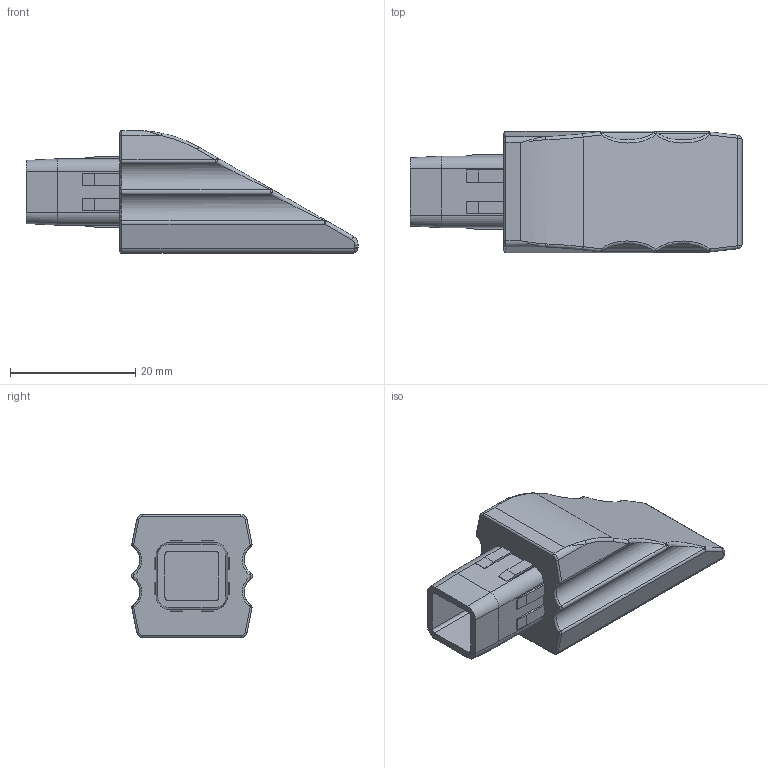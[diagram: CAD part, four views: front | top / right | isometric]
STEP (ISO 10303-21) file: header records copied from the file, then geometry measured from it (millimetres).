
FILE_DESCRIPTION (( 'STEP AP214' ), '1' );
FILE_NAME ('FGEC 30D.step', '2017-04-05T07:37:10', ( '' ), ( '' ), 'SwSTEP 2.0', 'SolidWorks 2015', '' );
FILE_SCHEMA (( 'AUTOMOTIVE_DESIGN' ));
Length unit declared in the file: millimetre
Products named in the file (1): FGEC 30D
Bounding box: 53 x 19.37 x 19.6 mm (x, y, z)
Volume: 9379.5 mm3; surface area: 3896.8 mm2
Topology: 1 solids, 1 shells, 138 faces, 344 edges, 206 vertices
Faces by surface type: plane 63, bspline 38, cylinder 37
Entity records: 8961 total; most frequent: CARTESIAN_POINT 5846, ORIENTED_EDGE 680, DIRECTION 588, EDGE_CURVE 340, LINE 214, VECTOR 214, VERTEX_POINT 206, AXIS2_PLACEMENT_3D 187
